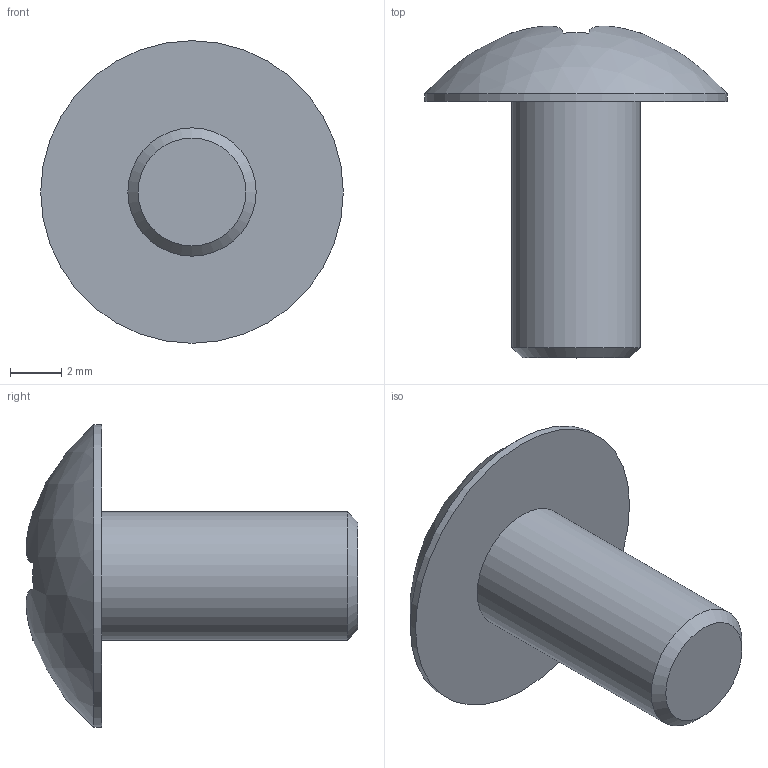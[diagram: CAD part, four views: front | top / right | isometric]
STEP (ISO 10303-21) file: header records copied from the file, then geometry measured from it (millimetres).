
FILE_DESCRIPTION(/* description */ (''),/* implementation_level */ '2;1');
FILE_NAME(/* name */ 'C:\Users\AMS43\Documents\Inventor\AMS\misumi\ボルト_ipt\ボルト_stp\TSB-05-10.ipt.stp',/* time_stamp */ '2016-10-06T11:46:43+09:00',/* author */ ('AMS43'),/* organization */ (''),/* preprocessor_version */ 'ST-DEVELOPER v15.2',/* originating_system */ 'Autodesk Inventor 2014',/* authorisation */ '');
FILE_SCHEMA (('AUTOMOTIVE_DESIGN { 1 0 10303 214 3 1 1 }'));
Length unit declared in the file: metre
Products named in the file (1): TSB-05-10
Bounding box: 11.8 x 12.94 x 11.8 mm (x, y, z)
Volume: 375.2 mm3; surface area: 428.2 mm2
Topology: 1 solids, 1 shells, 15 faces, 33 edges, 22 vertices
Faces by surface type: plane 7, cylinder 6, sphere 1, cone 1
Full cylindrical faces by diameter (mm): 5 x1, 11.8 x1
Entity records: 455 total; most frequent: CARTESIAN_POINT 102, DIRECTION 70, ORIENTED_EDGE 58, EDGE_CURVE 29, AXIS2_PLACEMENT_3D 29, VERTEX_POINT 21, EDGE_LOOP 20, FACE_OUTER_BOUND 15
